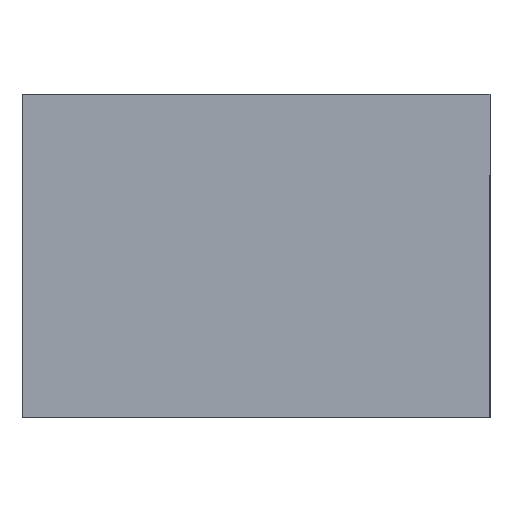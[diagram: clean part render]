
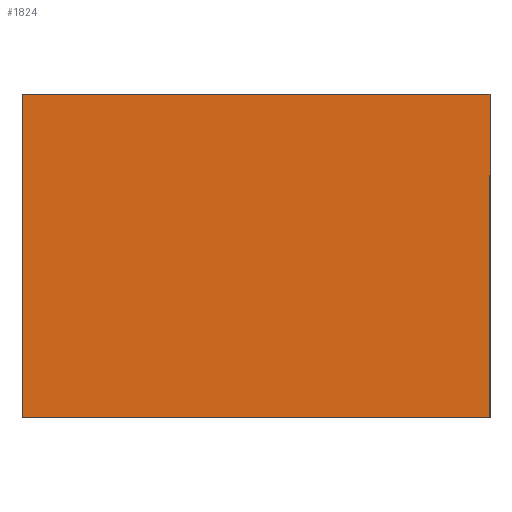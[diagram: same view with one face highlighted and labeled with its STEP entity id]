
A CAD part, front view. The second image highlights one B-rep face of the part: STEP entity #1824.
In plain terms, the highlighted planar face has unit normal (0, -1, 0).
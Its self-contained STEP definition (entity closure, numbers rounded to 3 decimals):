
#27 = LINE ( 'NONE', #1436, #2311 ) ;
#392 = EDGE_LOOP ( 'NONE', ( #1485, #2313, #1611, #1990 ) ) ;
#588 = EDGE_CURVE ( 'NONE', #1642, #1295, #782, .T. ) ;
#654 = VERTEX_POINT ( 'NONE', #1301 ) ;
#714 = VERTEX_POINT ( 'NONE', #1201 ) ;
#747 = VECTOR ( 'NONE', #1395, 1000. ) ;
#782 = LINE ( 'NONE', #1392, #747 ) ;
#899 = AXIS2_PLACEMENT_3D ( 'NONE', #1026, #1025, #1014 ) ;
#1014 = DIRECTION ( 'NONE',  ( 0., 0., 1. ) ) ;
#1025 = DIRECTION ( 'NONE',  ( 0., 1., 0. ) ) ;
#1026 = CARTESIAN_POINT ( 'NONE',  ( 0., 0., 0. ) ) ;
#1036 = PLANE ( 'NONE',  #899 ) ;
#1089 = VECTOR ( 'NONE', #1622, 1000. ) ;
#1157 = LINE ( 'NONE', #1618, #1089 ) ;
#1201 = CARTESIAN_POINT ( 'NONE',  ( 32.5, 0., -22.5 ) ) ;
#1295 = VERTEX_POINT ( 'NONE', #2160 ) ;
#1301 = CARTESIAN_POINT ( 'NONE',  ( 32.5, 0., 22.5 ) ) ;
#1370 = VECTOR ( 'NONE', #1516, 1000. ) ;
#1392 = CARTESIAN_POINT ( 'NONE',  ( -32.5, 0., -22.5 ) ) ;
#1395 = DIRECTION ( 'NONE',  ( 0., 0., 1. ) ) ;
#1436 = CARTESIAN_POINT ( 'NONE',  ( -32.5, 0., -22.5 ) ) ;
#1448 = DIRECTION ( 'NONE',  ( -1., 0., 0. ) ) ;
#1485 = ORIENTED_EDGE ( 'NONE', *, *, #1617, .F. ) ;
#1508 = CARTESIAN_POINT ( 'NONE',  ( -32.5, 0., 22.5 ) ) ;
#1516 = DIRECTION ( 'NONE',  ( 1., 0., 0. ) ) ;
#1548 = CARTESIAN_POINT ( 'NONE',  ( -32.5, 0., -22.5 ) ) ;
#1607 = FACE_OUTER_BOUND ( 'NONE', #392, .T. ) ;
#1611 = ORIENTED_EDGE ( 'NONE', *, *, #588, .F. ) ;
#1617 = EDGE_CURVE ( 'NONE', #654, #714, #1157, .T. ) ;
#1618 = CARTESIAN_POINT ( 'NONE',  ( 32.5, 0., -22.5 ) ) ;
#1622 = DIRECTION ( 'NONE',  ( 0., 0., -1. ) ) ;
#1642 = VERTEX_POINT ( 'NONE', #1548 ) ;
#1656 = EDGE_CURVE ( 'NONE', #1295, #654, #2060, .T. ) ;
#1679 = EDGE_CURVE ( 'NONE', #714, #1642, #27, .T. ) ;
#1824 = ADVANCED_FACE ( 'NONE', ( #1607 ), #1036, .F. ) ;
#1990 = ORIENTED_EDGE ( 'NONE', *, *, #1679, .F. ) ;
#2060 = LINE ( 'NONE', #1508, #1370 ) ;
#2160 = CARTESIAN_POINT ( 'NONE',  ( -32.5, 0., 22.5 ) ) ;
#2311 = VECTOR ( 'NONE', #1448, 1000. ) ;
#2313 = ORIENTED_EDGE ( 'NONE', *, *, #1656, .F. ) ;
